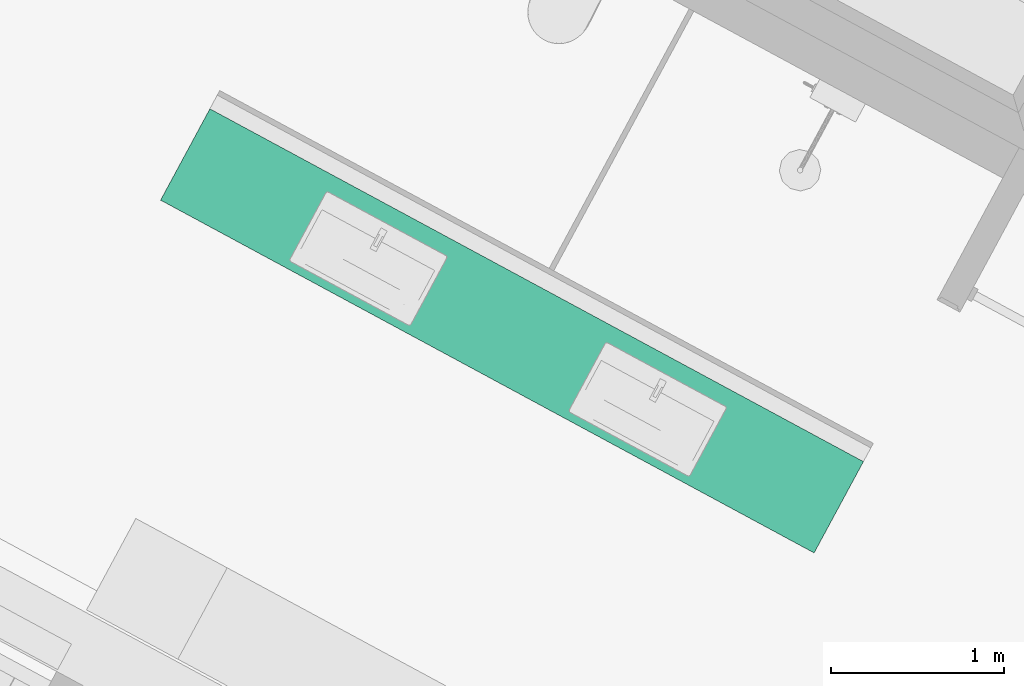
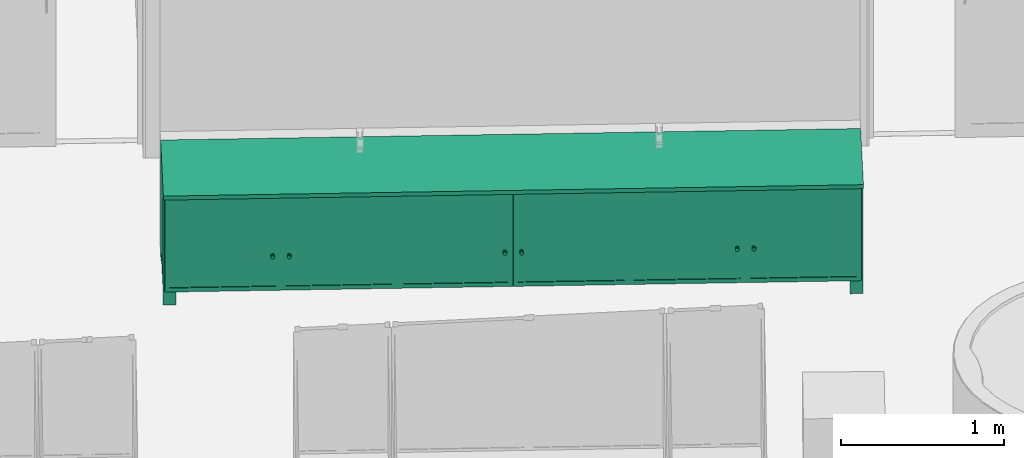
# One storey, part 20 of 41: 1 flow terminal.
"""IFC2X3 building model written with IfcOpenShell, lengths in metres."""

from ifc_helpers import new_model, entity, si_unit, converted_unit, derived_unit, money_unit, direction, frame, origin_with_axes, place, context, subcontext, project, spatial, faceted_brep, type_object, element, save


model = new_model("IFC2X3")

# Units and contexts
model_context = context("Model", 3, precision=1e-05, world=origin_with_axes(), true_north=direction((0.0, 1.0)))
body_context = subcontext(model_context, "Body", "Model", "MODEL_VIEW")
ifc_project = project(units=[si_unit("LENGTHUNIT", "METRE"), si_unit("AREAUNIT", "SQUARE_METRE"), si_unit("VOLUMEUNIT", "CUBIC_METRE"), converted_unit("PLANEANGLEUNIT", "DEGREE", entity("IfcPlaneAngleMeasure", 0.0174532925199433), si_unit("PLANEANGLEUNIT", "RADIAN"), dimensions=[0, 0, 0, 0, 0, 0, 0]), money_unit("EUR"), converted_unit("TIMEUNIT", "Year", entity("IfcTimeMeasure", 31556926.0), si_unit("TIMEUNIT", "SECOND"), dimensions=[0, 0, 1, 0, 0, 0, 0]), si_unit("MASSUNIT", "GRAM", prefix="KILO"), si_unit("THERMODYNAMICTEMPERATUREUNIT", "DEGREE_CELSIUS"), si_unit("LUMINOUSINTENSITYUNIT", "LUMEN"), si_unit("ENERGYUNIT", "JOULE", prefix="MEGA"), derived_unit("THERMALCONDUCTANCEUNIT", [(si_unit("POWERUNIT", "WATT"), 1), (si_unit("LENGTHUNIT", "METRE"), -1), (si_unit("THERMODYNAMICTEMPERATUREUNIT", "KELVIN"), -1)]), derived_unit("SPECIFICHEATCAPACITYUNIT", [(si_unit("ENERGYUNIT", "JOULE"), 1), (si_unit("MASSUNIT", "GRAM", prefix="KILO"), -1), (si_unit("THERMODYNAMICTEMPERATUREUNIT", "KELVIN"), -1)]), derived_unit("MASSDENSITYUNIT", [(si_unit("MASSUNIT", "GRAM", prefix="KILO"), 1), (si_unit("VOLUMEUNIT", "CUBIC_METRE"), -1)])], contexts=[model_context])

# Site, building, storey
site_placement = place(None, frame((-3.949935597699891, 1.740105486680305, 0.0), z_axis=(0.0, 0.0, 1.0), x_axis=(0.8799804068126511, -0.475009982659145, 0.0)))
site = spatial("IfcSite", under=ifc_project, at=site_placement, Name="Gelände", CompositionType="ELEMENT")
building_placement = place(site_placement, origin_with_axes())
building = spatial("IfcBuilding", under=site, at=building_placement, Name="Gebäude", CompositionType="ELEMENT")
storey_placement = place(building_placement, frame((0.0, 0.0, 4.55), z_axis=(0.0, 0.0, 1.0), x_axis=(1.0, 0.0, 0.0)))
storey = spatial("IfcBuildingStorey", under=building, at=storey_placement, Name="Staffelgeschoss", CompositionType="ELEMENT", Elevation=4.55)

# Flow terminal
sanitary_terminal_type = type_object("IfcSanitaryTerminalType", Name="Kleiderschrank 22", PredefinedType="NOTDEFINED")
flow_terminal_placement = place(storey_placement, frame((23.66207125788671, 3.927100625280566, 0.0), z_axis=(0.0, 0.0, 1.0), x_axis=(1.0, 0.0, 0.0)))
element("IfcFlowTerminal", 1, at=flow_terminal_placement, inside=storey, type_object=sanitary_terminal_type, Name="Objekt-0063", context=body_context, shape_type="Brep", body=[
    faceted_brep([(-0.02000000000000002, 0.6000002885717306, 0.12), (-0.02000000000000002, 0.6000002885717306, 0.7999999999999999), (-0.02000000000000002, 0.5800002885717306, 0.7999999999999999), (-0.02000000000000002, 0.5800002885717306, 0.12), (-4.272651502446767, 0.6000002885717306, 0.12), (-4.272651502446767, 0.6000002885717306, 0.7999999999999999), (-4.272651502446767, 0.5800002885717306, 0.7999999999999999), (-4.272651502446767, 0.5800002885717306, 0.12)], [[[0, 1, 2, 3]], [[4, 5, 1, 0]], [[1, 5, 6, 2]], [[3, 2, 6, 7]], [[0, 3, 7, 4]], [[7, 6, 5, 4]]]),
    faceted_brep([(-4.292651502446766, 0.05000000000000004, 0.1), (-4.292651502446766, 0.6000002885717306, 0.1), (-4.272651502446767, 0.6000002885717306, 0.1), (-4.272651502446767, 0.05000000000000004, 0.1), (-4.292651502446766, 0.05000000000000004, 0.82), (-4.292651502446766, 0.6000002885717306, 0.82), (-4.272651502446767, 0.6000002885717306, 0.82), (-4.272651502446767, 0.05000000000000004, 0.82)], [[[0, 1, 2, 3]], [[0, 4, 5, 1]], [[1, 5, 6, 2]], [[2, 6, 7, 3]], [[3, 7, 4, 0]], [[7, 6, 5, 4]]]),
    faceted_brep([(-0.02, 0.05000000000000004, 0.1), (-0.02, 0.6000002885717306, 0.1), (0.0, 0.6000002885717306, 0.1), (0.0, 0.05000000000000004, 0.1), (-0.02, 0.05000000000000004, 0.82), (-0.02, 0.6000002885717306, 0.82), (0.0, 0.6000002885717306, 0.82), (0.0, 0.05000000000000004, 0.82)], [[[0, 1, 2, 3]], [[0, 4, 5, 1]], [[1, 5, 6, 2]], [[2, 6, 7, 3]], [[3, 7, 4, 0]], [[7, 6, 5, 4]]]),
    faceted_brep([(-4.272651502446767, 0.05000000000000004, 0.1), (-4.272651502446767, 0.6000002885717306, 0.1), (-0.02000000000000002, 0.6000002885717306, 0.1), (-0.02000000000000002, 0.05000000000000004, 0.1), (-4.272651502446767, 0.05000000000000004, 0.12), (-4.272651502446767, 0.6000002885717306, 0.12), (-0.02000000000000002, 0.6000002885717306, 0.12), (-0.02000000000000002, 0.05000000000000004, 0.12)], [[[0, 1, 2, 3]], [[0, 4, 5, 1]], [[1, 5, 6, 2]], [[2, 6, 7, 3]], [[3, 7, 4, 0]], [[7, 6, 5, 4]]]),
    faceted_brep([(-4.272651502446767, 0.05000000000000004, 0.7999999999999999), (-4.272651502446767, 0.6000002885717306, 0.7999999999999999), (-0.02000000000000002, 0.6000002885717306, 0.7999999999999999), (-0.02000000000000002, 0.05000000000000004, 0.7999999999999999), (-4.272651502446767, 0.05000000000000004, 0.82), (-4.272651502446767, 0.6000002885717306, 0.82), (-0.02000000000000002, 0.6000002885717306, 0.82), (-0.02000000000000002, 0.05000000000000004, 0.82)], [[[0, 1, 2, 3]], [[0, 4, 5, 1]], [[1, 5, 6, 2]], [[2, 6, 7, 3]], [[3, 7, 4, 0]], [[7, 6, 5, 4]]]),
    faceted_brep([(-4.292651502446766, 0.6000002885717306, 0.82), (-4.292651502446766, 0.0, 0.82), (-4.292651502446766, 0.0, 0.85), (-4.292651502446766, 0.6000002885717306, 0.85), (0.0, 0.6000002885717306, 0.82), (0.0, 0.0, 0.82), (0.0, 0.0, 0.85), (0.0, 0.6000002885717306, 0.85)], [[[0, 1, 2, 3]], [[0, 4, 5, 1]], [[1, 5, 6, 2]], [[3, 2, 6, 7]], [[4, 0, 3, 7]], [[5, 4, 7, 6]]]),
    faceted_brep([(-0.08000000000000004, 0.5200002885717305, 0.0), (-0.08000000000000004, 0.5200002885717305, 0.1), (-0.08000000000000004, 0.6000002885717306, 0.1), (-0.08000000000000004, 0.6000002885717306, 0.0), (0.0, 0.5200002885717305, 0.0), (0.0, 0.5200002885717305, 0.1), (0.0, 0.6000002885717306, 0.1), (0.0, 0.6000002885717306, 0.0)], [[[0, 1, 2, 3]], [[4, 5, 1, 0]], [[1, 5, 6, 2]], [[3, 2, 6, 7]], [[0, 3, 7, 4]], [[7, 6, 5, 4]]]),
    faceted_brep([(-4.292651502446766, 0.5200002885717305, 0.0), (-4.292651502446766, 0.5200002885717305, 0.1), (-4.292651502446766, 0.6000002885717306, 0.1), (-4.292651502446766, 0.6000002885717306, 0.0), (-4.212651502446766, 0.5200002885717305, 0.0), (-4.212651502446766, 0.5200002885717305, 0.1), (-4.212651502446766, 0.6000002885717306, 0.1), (-4.212651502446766, 0.6000002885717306, 0.0)], [[[0, 1, 2, 3]], [[4, 5, 1, 0]], [[1, 5, 6, 2]], [[3, 2, 6, 7]], [[0, 3, 7, 4]], [[7, 6, 5, 4]]]),
    faceted_brep([(-0.08000000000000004, 0.05000000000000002, 0.0), (-0.08000000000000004, 0.05000000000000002, 0.1), (-0.08000000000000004, 0.13, 0.1), (-0.08000000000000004, 0.13, 0.0), (0.0, 0.05000000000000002, 0.0), (0.0, 0.05000000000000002, 0.1), (0.0, 0.13, 0.1), (0.0, 0.13, 0.0)], [[[0, 1, 2, 3]], [[4, 5, 1, 0]], [[1, 5, 6, 2]], [[3, 2, 6, 7]], [[0, 3, 7, 4]], [[7, 6, 5, 4]]]),
    faceted_brep([(-4.292651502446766, 0.05000000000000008, 0.0), (-4.292651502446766, 0.05000000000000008, 0.1), (-4.292651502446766, 0.1300000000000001, 0.1), (-4.292651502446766, 0.1300000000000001, 0.0), (-4.212651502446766, 0.05000000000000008, 0.0), (-4.212651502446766, 0.05000000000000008, 0.1), (-4.212651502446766, 0.1300000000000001, 0.1), (-4.212651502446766, 0.1300000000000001, 0.0)], [[[0, 1, 2, 3]], [[4, 5, 1, 0]], [[1, 5, 6, 2]], [[3, 2, 6, 7]], [[0, 3, 7, 4]], [[7, 6, 5, 4]]]),
    faceted_brep([(-0.7216085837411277, 0.05, 0.1105), (-0.7216085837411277, 0.03, 0.1105), (-0.7216085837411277, 0.03000000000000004, 0.8095), (-0.7216085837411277, 0.05000000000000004, 0.8095), (-0.6916085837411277, 0.05, 0.1405), (-0.6916085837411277, 0.03000000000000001, 0.1405), (-0.6916085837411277, 0.03000000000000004, 0.7795), (-0.6916085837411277, 0.05000000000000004, 0.7795)], [[[0, 1, 2, 3]], [[4, 5, 1, 0]], [[1, 5, 6, 2]], [[3, 2, 6, 7]], [[0, 3, 7, 4]], [[7, 6, 5, 4]]]),
    faceted_brep([(-0.04050000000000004, 0.05, 0.1405), (-0.04050000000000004, 0.03000000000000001, 0.1405), (-0.04050000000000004, 0.03000000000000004, 0.7795), (-0.04050000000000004, 0.05000000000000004, 0.7795), (-0.01050000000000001, 0.05, 0.1105), (-0.01050000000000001, 0.03, 0.1105), (-0.01050000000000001, 0.03000000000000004, 0.8095), (-0.01050000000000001, 0.05000000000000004, 0.8095)], [[[0, 1, 2, 3]], [[4, 5, 1, 0]], [[1, 5, 6, 2]], [[3, 2, 6, 7]], [[0, 3, 7, 4]], [[7, 6, 5, 4]]]),
    faceted_brep([(-0.01050000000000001, 0.05, 0.1105), (-0.01050000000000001, 0.03, 0.1105), (-0.7216085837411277, 0.03, 0.1105), (-0.7216085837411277, 0.05, 0.1105), (-0.04050000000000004, 0.05, 0.1405), (-0.04050000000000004, 0.03000000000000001, 0.1405), (-0.6916085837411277, 0.03000000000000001, 0.1405), (-0.6916085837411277, 0.05, 0.1405)], [[[0, 1, 2, 3]], [[4, 5, 1, 0]], [[1, 5, 6, 2]], [[3, 2, 6, 7]], [[0, 3, 7, 4]], [[7, 6, 5, 4]]]),
    faceted_brep([(-0.04050000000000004, 0.05000000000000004, 0.7795), (-0.04050000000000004, 0.03000000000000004, 0.7795), (-0.6916085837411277, 0.03000000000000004, 0.7795), (-0.6916085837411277, 0.05000000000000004, 0.7795), (-0.01050000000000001, 0.05000000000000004, 0.8095), (-0.01050000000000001, 0.03000000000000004, 0.8095), (-0.7216085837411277, 0.03000000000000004, 0.8095), (-0.7216085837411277, 0.05000000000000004, 0.8095)], [[[0, 1, 2, 3]], [[4, 5, 1, 0]], [[1, 5, 6, 2]], [[3, 2, 6, 7]], [[0, 3, 7, 4]], [[7, 6, 5, 4]]]),
    faceted_brep([(-0.6916085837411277, 0.04500000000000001, 0.1405), (-0.6916085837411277, 0.035, 0.1405), (-0.6916085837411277, 0.03500000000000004, 0.7795000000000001), (-0.6916085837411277, 0.04500000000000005, 0.7795000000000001), (-0.04050000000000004, 0.04500000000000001, 0.1405), (-0.04050000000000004, 0.035, 0.1405), (-0.04050000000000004, 0.03500000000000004, 0.7795000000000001), (-0.04050000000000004, 0.04500000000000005, 0.7795000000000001)], [[[0, 1, 2, 3]], [[4, 5, 1, 0]], [[1, 5, 6, 2]], [[3, 2, 6, 7]], [[0, 3, 7, 4]], [[7, 6, 5, 4]]]),
    faceted_brep([(-0.681500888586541, 0.035, 0.364), (-0.6831085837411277, 0.035, 0.37), (-0.681500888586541, 0.035, 0.376), (-0.6771085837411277, 0.035, 0.3803923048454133), (-0.6711085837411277, 0.035, 0.382), (-0.6651085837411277, 0.035, 0.3803923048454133), (-0.6607162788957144, 0.035, 0.376), (-0.6591085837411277, 0.035, 0.37), (-0.6607162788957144, 0.035, 0.364), (-0.6651085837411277, 0.035, 0.3596076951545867), (-0.6711085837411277, 0.035, 0.358), (-0.6771085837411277, 0.035, 0.3596076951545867), (-0.681500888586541, 0.01, 0.364), (-0.6831085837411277, 0.01, 0.37), (-0.681500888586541, 0.01, 0.376), (-0.6771085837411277, 0.01, 0.3803923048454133), (-0.6711085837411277, 0.01, 0.382), (-0.6651085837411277, 0.01, 0.3803923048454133), (-0.6607162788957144, 0.01, 0.376), (-0.6591085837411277, 0.01, 0.37), (-0.6607162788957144, 0.01, 0.364), (-0.6651085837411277, 0.01, 0.3596076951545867), (-0.6711085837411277, 0.01, 0.358), (-0.6771085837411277, 0.01, 0.3596076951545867)], [[[0, 1, 2, 3, 4, 5, 6, 7, 8, 9, 10, 11]], [[0, 12, 13, 1]], [[1, 13, 14, 2]], [[2, 14, 15, 3]], [[3, 15, 16, 4]], [[4, 16, 17, 5]], [[5, 17, 18, 6]], [[6, 18, 19, 7]], [[7, 19, 20, 8]], [[8, 20, 21, 9]], [[9, 21, 22, 10]], [[10, 22, 23, 11]], [[11, 23, 12, 0]], [[12, 23, 22, 21, 20, 19, 18, 17, 16, 15, 14, 13]]]),
    faceted_brep([(-1.434717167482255, 0.05, 0.1105), (-1.434717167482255, 0.03, 0.1105), (-1.434717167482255, 0.03000000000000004, 0.8095), (-1.434717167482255, 0.05000000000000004, 0.8095), (-1.404717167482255, 0.05, 0.1405), (-1.404717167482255, 0.03000000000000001, 0.1405), (-1.404717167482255, 0.03000000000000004, 0.7795), (-1.404717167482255, 0.05000000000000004, 0.7795)], [[[0, 1, 2, 3]], [[4, 5, 1, 0]], [[1, 5, 6, 2]], [[3, 2, 6, 7]], [[0, 3, 7, 4]], [[7, 6, 5, 4]]]),
    faceted_brep([(-0.7536085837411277, 0.05, 0.1405), (-0.7536085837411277, 0.03000000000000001, 0.1405), (-0.7536085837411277, 0.03000000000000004, 0.7795), (-0.7536085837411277, 0.05000000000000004, 0.7795), (-0.7236085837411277, 0.05, 0.1105), (-0.7236085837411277, 0.03, 0.1105), (-0.7236085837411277, 0.03000000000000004, 0.8095), (-0.7236085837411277, 0.05000000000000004, 0.8095)], [[[0, 1, 2, 3]], [[4, 5, 1, 0]], [[1, 5, 6, 2]], [[3, 2, 6, 7]], [[0, 3, 7, 4]], [[7, 6, 5, 4]]]),
    faceted_brep([(-0.7236085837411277, 0.05, 0.1105), (-0.7236085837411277, 0.03, 0.1105), (-1.434717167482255, 0.03, 0.1105), (-1.434717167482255, 0.05, 0.1105), (-0.7536085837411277, 0.05, 0.1405), (-0.7536085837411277, 0.03000000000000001, 0.1405), (-1.404717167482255, 0.03000000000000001, 0.1405), (-1.404717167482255, 0.05, 0.1405)], [[[0, 1, 2, 3]], [[4, 5, 1, 0]], [[1, 5, 6, 2]], [[3, 2, 6, 7]], [[0, 3, 7, 4]], [[7, 6, 5, 4]]]),
    faceted_brep([(-0.7536085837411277, 0.05000000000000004, 0.7795), (-0.7536085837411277, 0.03000000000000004, 0.7795), (-1.404717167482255, 0.03000000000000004, 0.7795), (-1.404717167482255, 0.05000000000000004, 0.7795), (-0.7236085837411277, 0.05000000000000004, 0.8095), (-0.7236085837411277, 0.03000000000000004, 0.8095), (-1.434717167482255, 0.03000000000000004, 0.8095), (-1.434717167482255, 0.05000000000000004, 0.8095)], [[[0, 1, 2, 3]], [[4, 5, 1, 0]], [[1, 5, 6, 2]], [[3, 2, 6, 7]], [[0, 3, 7, 4]], [[7, 6, 5, 4]]]),
    faceted_brep([(-1.404717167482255, 0.04500000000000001, 0.1405), (-1.404717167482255, 0.04000000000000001, 0.1405), (-1.404717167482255, 0.04000000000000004, 0.7795000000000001), (-1.404717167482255, 0.04500000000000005, 0.7795000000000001), (-0.7536085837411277, 0.04500000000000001, 0.1405), (-0.7536085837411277, 0.04000000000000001, 0.1405), (-0.7536085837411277, 0.04000000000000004, 0.7795000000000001), (-0.7536085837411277, 0.04500000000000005, 0.7795000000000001)], [[[0, 1, 2, 3]], [[4, 5, 1, 0]], [[1, 5, 6, 2]], [[3, 2, 6, 7]], [[0, 3, 7, 4]], [[7, 6, 5, 4]]]),
    faceted_brep([(-1.404717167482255, 0.04000000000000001, 0.1405), (-1.404717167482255, 0.03500000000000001, 0.1405), (-1.404717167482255, 0.03500000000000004, 0.7795000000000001), (-1.404717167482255, 0.04000000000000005, 0.7795000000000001), (-0.7536085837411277, 0.04000000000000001, 0.1405), (-0.7536085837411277, 0.03500000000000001, 0.1405), (-0.7536085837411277, 0.03500000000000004, 0.7795000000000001), (-0.7536085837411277, 0.04000000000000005, 0.7795000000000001)], [[[0, 1, 2, 3]], [[4, 5, 1, 0]], [[1, 5, 6, 2]], [[3, 2, 6, 7]], [[0, 3, 7, 4]], [[7, 6, 5, 4]]]),
    faceted_brep([(-0.7627162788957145, 0.035, 0.364), (-0.7671085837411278, 0.035, 0.3596076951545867), (-0.7731085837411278, 0.035, 0.358), (-0.7791085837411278, 0.035, 0.3596076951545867), (-0.7835008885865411, 0.035, 0.364), (-0.7851085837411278, 0.035, 0.37), (-0.7835008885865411, 0.035, 0.376), (-0.7791085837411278, 0.035, 0.3803923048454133), (-0.7731085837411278, 0.035, 0.382), (-0.7671085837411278, 0.035, 0.3803923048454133), (-0.7627162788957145, 0.035, 0.376), (-0.7611085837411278, 0.035, 0.37), (-0.7627162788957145, 0.01, 0.364), (-0.7671085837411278, 0.01, 0.3596076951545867), (-0.7731085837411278, 0.01, 0.358), (-0.7791085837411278, 0.01, 0.3596076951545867), (-0.7835008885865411, 0.01, 0.364), (-0.7851085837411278, 0.01, 0.37), (-0.7835008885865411, 0.01, 0.376), (-0.7791085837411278, 0.01, 0.3803923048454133), (-0.7731085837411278, 0.01, 0.382), (-0.7671085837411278, 0.01, 0.3803923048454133), (-0.7627162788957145, 0.01, 0.376), (-0.7611085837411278, 0.01, 0.37)], [[[0, 1, 2, 3, 4, 5, 6, 7, 8, 9, 10, 11]], [[1, 0, 12, 13]], [[2, 1, 13, 14]], [[3, 2, 14, 15]], [[4, 3, 15, 16]], [[5, 4, 16, 17]], [[6, 5, 17, 18]], [[7, 6, 18, 19]], [[8, 7, 19, 20]], [[9, 8, 20, 21]], [[10, 9, 21, 22]], [[11, 10, 22, 23]], [[0, 11, 23, 12]], [[12, 23, 22, 21, 20, 19, 18, 17, 16, 15, 14, 13]]]),
    faceted_brep([(-2.145825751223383, 0.05, 0.1105), (-2.145825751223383, 0.03, 0.1105), (-2.145825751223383, 0.03000000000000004, 0.8095), (-2.145825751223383, 0.05000000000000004, 0.8095), (-2.115825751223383, 0.05, 0.1405), (-2.115825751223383, 0.03000000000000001, 0.1405), (-2.115825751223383, 0.03000000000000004, 0.7795), (-2.115825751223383, 0.05000000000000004, 0.7795)], [[[0, 1, 2, 3]], [[4, 5, 1, 0]], [[1, 5, 6, 2]], [[3, 2, 6, 7]], [[0, 3, 7, 4]], [[7, 6, 5, 4]]]),
    faceted_brep([(-1.464717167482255, 0.05, 0.1405), (-1.464717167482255, 0.03000000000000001, 0.1405), (-1.464717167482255, 0.03000000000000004, 0.7795), (-1.464717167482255, 0.05000000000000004, 0.7795), (-1.434717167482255, 0.05, 0.1105), (-1.434717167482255, 0.03, 0.1105), (-1.434717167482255, 0.03000000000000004, 0.8095), (-1.434717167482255, 0.05000000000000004, 0.8095)], [[[0, 1, 2, 3]], [[4, 5, 1, 0]], [[1, 5, 6, 2]], [[3, 2, 6, 7]], [[0, 3, 7, 4]], [[7, 6, 5, 4]]]),
    faceted_brep([(-1.434717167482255, 0.05, 0.1105), (-1.434717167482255, 0.03, 0.1105), (-2.145825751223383, 0.03, 0.1105), (-2.145825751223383, 0.05, 0.1105), (-1.464717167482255, 0.05, 0.1405), (-1.464717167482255, 0.03000000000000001, 0.1405), (-2.115825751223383, 0.03000000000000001, 0.1405), (-2.115825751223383, 0.05, 0.1405)], [[[0, 1, 2, 3]], [[4, 5, 1, 0]], [[1, 5, 6, 2]], [[3, 2, 6, 7]], [[0, 3, 7, 4]], [[7, 6, 5, 4]]]),
    faceted_brep([(-1.464717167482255, 0.05000000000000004, 0.7795), (-1.464717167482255, 0.03000000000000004, 0.7795), (-2.115825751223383, 0.03000000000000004, 0.7795), (-2.115825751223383, 0.05000000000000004, 0.7795), (-1.434717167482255, 0.05000000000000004, 0.8095), (-1.434717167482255, 0.03000000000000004, 0.8095), (-2.145825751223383, 0.03000000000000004, 0.8095), (-2.145825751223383, 0.05000000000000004, 0.8095)], [[[0, 1, 2, 3]], [[4, 5, 1, 0]], [[1, 5, 6, 2]], [[3, 2, 6, 7]], [[0, 3, 7, 4]], [[7, 6, 5, 4]]]),
    faceted_brep([(-2.115825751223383, 0.04500000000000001, 0.1405), (-2.115825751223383, 0.035, 0.1405), (-2.115825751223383, 0.03500000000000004, 0.7795000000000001), (-2.115825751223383, 0.04500000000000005, 0.7795000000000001), (-1.464717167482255, 0.04500000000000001, 0.1405), (-1.464717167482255, 0.035, 0.1405), (-1.464717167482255, 0.03500000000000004, 0.7795000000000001), (-1.464717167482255, 0.04500000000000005, 0.7795000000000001)], [[[0, 1, 2, 3]], [[4, 5, 1, 0]], [[1, 5, 6, 2]], [[3, 2, 6, 7]], [[0, 3, 7, 4]], [[7, 6, 5, 4]]]),
    faceted_brep([(-2.105718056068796, 0.035, 0.364), (-2.107325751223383, 0.035, 0.37), (-2.105718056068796, 0.035, 0.376), (-2.101325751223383, 0.035, 0.3803923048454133), (-2.095325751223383, 0.035, 0.382), (-2.089325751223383, 0.035, 0.3803923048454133), (-2.08493344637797, 0.035, 0.376), (-2.083325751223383, 0.035, 0.37), (-2.08493344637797, 0.035, 0.364), (-2.089325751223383, 0.035, 0.3596076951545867), (-2.095325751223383, 0.035, 0.358), (-2.101325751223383, 0.035, 0.3596076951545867), (-2.105718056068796, 0.01, 0.364), (-2.107325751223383, 0.01, 0.37), (-2.105718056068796, 0.01, 0.376), (-2.101325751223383, 0.01, 0.3803923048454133), (-2.095325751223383, 0.01, 0.382), (-2.089325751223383, 0.01, 0.3803923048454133), (-2.08493344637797, 0.01, 0.376), (-2.083325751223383, 0.01, 0.37), (-2.08493344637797, 0.01, 0.364), (-2.089325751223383, 0.01, 0.3596076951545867), (-2.095325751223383, 0.01, 0.358), (-2.101325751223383, 0.01, 0.3596076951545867)], [[[0, 1, 2, 3, 4, 5, 6, 7, 8, 9, 10, 11]], [[0, 12, 13, 1]], [[1, 13, 14, 2]], [[2, 14, 15, 3]], [[3, 15, 16, 4]], [[4, 16, 17, 5]], [[5, 17, 18, 6]], [[6, 18, 19, 7]], [[7, 19, 20, 8]], [[8, 20, 21, 9]], [[9, 21, 22, 10]], [[10, 22, 23, 11]], [[11, 23, 12, 0]], [[12, 23, 22, 21, 20, 19, 18, 17, 16, 15, 14, 13]]]),
    faceted_brep([(-2.858934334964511, 0.05, 0.1105), (-2.858934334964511, 0.03, 0.1105), (-2.858934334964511, 0.03000000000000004, 0.8095), (-2.858934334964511, 0.05000000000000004, 0.8095), (-2.828934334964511, 0.05, 0.1405), (-2.828934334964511, 0.03000000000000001, 0.1405), (-2.828934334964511, 0.03000000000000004, 0.7795), (-2.828934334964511, 0.05000000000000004, 0.7795)], [[[0, 1, 2, 3]], [[4, 5, 1, 0]], [[1, 5, 6, 2]], [[3, 2, 6, 7]], [[0, 3, 7, 4]], [[7, 6, 5, 4]]]),
    faceted_brep([(-2.177825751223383, 0.05, 0.1405), (-2.177825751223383, 0.03000000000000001, 0.1405), (-2.177825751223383, 0.03000000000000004, 0.7795), (-2.177825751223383, 0.05000000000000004, 0.7795), (-2.147825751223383, 0.05, 0.1105), (-2.147825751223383, 0.03, 0.1105), (-2.147825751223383, 0.03000000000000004, 0.8095), (-2.147825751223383, 0.05000000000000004, 0.8095)], [[[0, 1, 2, 3]], [[4, 5, 1, 0]], [[1, 5, 6, 2]], [[3, 2, 6, 7]], [[0, 3, 7, 4]], [[7, 6, 5, 4]]]),
    faceted_brep([(-2.147825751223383, 0.05, 0.1105), (-2.147825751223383, 0.03, 0.1105), (-2.85893433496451, 0.03, 0.1105), (-2.85893433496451, 0.05, 0.1105), (-2.177825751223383, 0.05, 0.1405), (-2.177825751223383, 0.03000000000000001, 0.1405), (-2.828934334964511, 0.03000000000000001, 0.1405), (-2.828934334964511, 0.05, 0.1405)], [[[0, 1, 2, 3]], [[4, 5, 1, 0]], [[1, 5, 6, 2]], [[3, 2, 6, 7]], [[0, 3, 7, 4]], [[7, 6, 5, 4]]]),
    faceted_brep([(-2.177825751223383, 0.05000000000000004, 0.7795), (-2.177825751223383, 0.03000000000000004, 0.7795), (-2.828934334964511, 0.03000000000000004, 0.7795), (-2.828934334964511, 0.05000000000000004, 0.7795), (-2.147825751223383, 0.05000000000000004, 0.8095), (-2.147825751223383, 0.03000000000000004, 0.8095), (-2.85893433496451, 0.03000000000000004, 0.8095), (-2.85893433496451, 0.05000000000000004, 0.8095)], [[[0, 1, 2, 3]], [[4, 5, 1, 0]], [[1, 5, 6, 2]], [[3, 2, 6, 7]], [[0, 3, 7, 4]], [[7, 6, 5, 4]]]),
    faceted_brep([(-2.82893433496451, 0.04500000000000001, 0.1405), (-2.82893433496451, 0.04000000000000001, 0.1405), (-2.82893433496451, 0.04000000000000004, 0.7795000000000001), (-2.82893433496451, 0.04500000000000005, 0.7795000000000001), (-2.177825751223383, 0.04500000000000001, 0.1405), (-2.177825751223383, 0.04000000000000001, 0.1405), (-2.177825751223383, 0.04000000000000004, 0.7795000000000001), (-2.177825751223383, 0.04500000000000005, 0.7795000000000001)], [[[0, 1, 2, 3]], [[4, 5, 1, 0]], [[1, 5, 6, 2]], [[3, 2, 6, 7]], [[0, 3, 7, 4]], [[7, 6, 5, 4]]]),
    faceted_brep([(-2.82893433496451, 0.04000000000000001, 0.1405), (-2.82893433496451, 0.03500000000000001, 0.1405), (-2.82893433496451, 0.03500000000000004, 0.7795000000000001), (-2.82893433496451, 0.04000000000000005, 0.7795000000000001), (-2.177825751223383, 0.04000000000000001, 0.1405), (-2.177825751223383, 0.03500000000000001, 0.1405), (-2.177825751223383, 0.03500000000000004, 0.7795000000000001), (-2.177825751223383, 0.04000000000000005, 0.7795000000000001)], [[[0, 1, 2, 3]], [[4, 5, 1, 0]], [[1, 5, 6, 2]], [[3, 2, 6, 7]], [[0, 3, 7, 4]], [[7, 6, 5, 4]]]),
    faceted_brep([(-2.18693344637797, 0.035, 0.364), (-2.191325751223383, 0.035, 0.3596076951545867), (-2.197325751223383, 0.035, 0.358), (-2.203325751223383, 0.035, 0.3596076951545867), (-2.207718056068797, 0.035, 0.364), (-2.209325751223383, 0.035, 0.37), (-2.207718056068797, 0.035, 0.376), (-2.203325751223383, 0.035, 0.3803923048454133), (-2.197325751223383, 0.035, 0.382), (-2.191325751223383, 0.035, 0.3803923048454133), (-2.18693344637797, 0.035, 0.376), (-2.185325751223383, 0.035, 0.37), (-2.18693344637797, 0.01, 0.364), (-2.191325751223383, 0.01, 0.3596076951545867), (-2.197325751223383, 0.01, 0.358), (-2.203325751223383, 0.01, 0.3596076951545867), (-2.207718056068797, 0.01, 0.364), (-2.209325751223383, 0.01, 0.37), (-2.207718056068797, 0.01, 0.376), (-2.203325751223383, 0.01, 0.3803923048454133), (-2.197325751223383, 0.01, 0.382), (-2.191325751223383, 0.01, 0.3803923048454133), (-2.18693344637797, 0.01, 0.376), (-2.185325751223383, 0.01, 0.37)], [[[0, 1, 2, 3, 4, 5, 6, 7, 8, 9, 10, 11]], [[1, 0, 12, 13]], [[2, 1, 13, 14]], [[3, 2, 14, 15]], [[4, 3, 15, 16]], [[5, 4, 16, 17]], [[6, 5, 17, 18]], [[7, 6, 18, 19]], [[8, 7, 19, 20]], [[9, 8, 20, 21]], [[10, 9, 21, 22]], [[11, 10, 22, 23]], [[0, 11, 23, 12]], [[12, 23, 22, 21, 20, 19, 18, 17, 16, 15, 14, 13]]]),
    faceted_brep([(-3.570042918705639, 0.05, 0.1105), (-3.570042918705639, 0.03, 0.1105), (-3.570042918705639, 0.03000000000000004, 0.8095), (-3.570042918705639, 0.05000000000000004, 0.8095), (-3.540042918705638, 0.05, 0.1405), (-3.540042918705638, 0.03000000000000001, 0.1405), (-3.540042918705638, 0.03000000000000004, 0.7795), (-3.540042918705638, 0.05000000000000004, 0.7795)], [[[0, 1, 2, 3]], [[4, 5, 1, 0]], [[1, 5, 6, 2]], [[3, 2, 6, 7]], [[0, 3, 7, 4]], [[7, 6, 5, 4]]]),
    faceted_brep([(-2.88893433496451, 0.05, 0.1405), (-2.88893433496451, 0.03000000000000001, 0.1405), (-2.88893433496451, 0.03000000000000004, 0.7795), (-2.88893433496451, 0.05000000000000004, 0.7795), (-2.85893433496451, 0.05, 0.1105), (-2.85893433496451, 0.03, 0.1105), (-2.85893433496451, 0.03000000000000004, 0.8095), (-2.85893433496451, 0.05000000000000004, 0.8095)], [[[0, 1, 2, 3]], [[4, 5, 1, 0]], [[1, 5, 6, 2]], [[3, 2, 6, 7]], [[0, 3, 7, 4]], [[7, 6, 5, 4]]]),
    faceted_brep([(-2.85893433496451, 0.05, 0.1105), (-2.85893433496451, 0.03, 0.1105), (-3.570042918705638, 0.03, 0.1105), (-3.570042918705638, 0.05, 0.1105), (-2.88893433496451, 0.05, 0.1405), (-2.88893433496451, 0.03000000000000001, 0.1405), (-3.540042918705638, 0.03000000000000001, 0.1405), (-3.540042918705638, 0.05, 0.1405)], [[[0, 1, 2, 3]], [[4, 5, 1, 0]], [[1, 5, 6, 2]], [[3, 2, 6, 7]], [[0, 3, 7, 4]], [[7, 6, 5, 4]]]),
    faceted_brep([(-2.88893433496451, 0.05000000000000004, 0.7795), (-2.88893433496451, 0.03000000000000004, 0.7795), (-3.540042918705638, 0.03000000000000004, 0.7795), (-3.540042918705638, 0.05000000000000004, 0.7795), (-2.85893433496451, 0.05000000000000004, 0.8095), (-2.85893433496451, 0.03000000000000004, 0.8095), (-3.570042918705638, 0.03000000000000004, 0.8095), (-3.570042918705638, 0.05000000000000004, 0.8095)], [[[0, 1, 2, 3]], [[4, 5, 1, 0]], [[1, 5, 6, 2]], [[3, 2, 6, 7]], [[0, 3, 7, 4]], [[7, 6, 5, 4]]]),
    faceted_brep([(-3.540042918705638, 0.04500000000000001, 0.1405), (-3.540042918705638, 0.035, 0.1405), (-3.540042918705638, 0.03500000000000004, 0.7795000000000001), (-3.540042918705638, 0.04500000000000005, 0.7795000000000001), (-2.88893433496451, 0.04500000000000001, 0.1405), (-2.88893433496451, 0.035, 0.1405), (-2.88893433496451, 0.03500000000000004, 0.7795000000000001), (-2.88893433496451, 0.04500000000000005, 0.7795000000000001)], [[[0, 1, 2, 3]], [[4, 5, 1, 0]], [[1, 5, 6, 2]], [[3, 2, 6, 7]], [[0, 3, 7, 4]], [[7, 6, 5, 4]]]),
    faceted_brep([(-3.529935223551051, 0.035, 0.364), (-3.531542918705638, 0.035, 0.37), (-3.529935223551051, 0.035, 0.376), (-3.525542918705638, 0.035, 0.3803923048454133), (-3.519542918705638, 0.035, 0.382), (-3.513542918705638, 0.035, 0.3803923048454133), (-3.509150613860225, 0.035, 0.376), (-3.507542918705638, 0.035, 0.37), (-3.509150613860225, 0.035, 0.364), (-3.513542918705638, 0.035, 0.3596076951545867), (-3.519542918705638, 0.035, 0.358), (-3.525542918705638, 0.035, 0.3596076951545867), (-3.529935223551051, 0.01, 0.364), (-3.531542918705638, 0.01, 0.37), (-3.529935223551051, 0.01, 0.376), (-3.525542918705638, 0.01, 0.3803923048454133), (-3.519542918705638, 0.01, 0.382), (-3.513542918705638, 0.01, 0.3803923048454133), (-3.509150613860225, 0.01, 0.376), (-3.507542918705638, 0.01, 0.37), (-3.509150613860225, 0.01, 0.364), (-3.513542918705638, 0.01, 0.3596076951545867), (-3.519542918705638, 0.01, 0.358), (-3.525542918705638, 0.01, 0.3596076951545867)], [[[0, 1, 2, 3, 4, 5, 6, 7, 8, 9, 10, 11]], [[0, 12, 13, 1]], [[1, 13, 14, 2]], [[2, 14, 15, 3]], [[3, 15, 16, 4]], [[4, 16, 17, 5]], [[5, 17, 18, 6]], [[6, 18, 19, 7]], [[7, 19, 20, 8]], [[8, 20, 21, 9]], [[9, 21, 22, 10]], [[10, 22, 23, 11]], [[11, 23, 12, 0]], [[12, 23, 22, 21, 20, 19, 18, 17, 16, 15, 14, 13]]]),
    faceted_brep([(-4.283151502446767, 0.05, 0.1105), (-4.283151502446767, 0.03, 0.1105), (-4.283151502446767, 0.03000000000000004, 0.8095), (-4.283151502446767, 0.05000000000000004, 0.8095), (-4.253151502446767, 0.05, 0.1405), (-4.253151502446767, 0.03000000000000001, 0.1405), (-4.253151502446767, 0.03000000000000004, 0.7795), (-4.253151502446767, 0.05000000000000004, 0.7795)], [[[0, 1, 2, 3]], [[4, 5, 1, 0]], [[1, 5, 6, 2]], [[3, 2, 6, 7]], [[0, 3, 7, 4]], [[7, 6, 5, 4]]]),
    faceted_brep([(-3.602042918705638, 0.05, 0.1405), (-3.602042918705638, 0.03000000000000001, 0.1405), (-3.602042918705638, 0.03000000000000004, 0.7795), (-3.602042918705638, 0.05000000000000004, 0.7795), (-3.572042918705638, 0.05, 0.1105), (-3.572042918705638, 0.03, 0.1105), (-3.572042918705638, 0.03000000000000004, 0.8095), (-3.572042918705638, 0.05000000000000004, 0.8095)], [[[0, 1, 2, 3]], [[4, 5, 1, 0]], [[1, 5, 6, 2]], [[3, 2, 6, 7]], [[0, 3, 7, 4]], [[7, 6, 5, 4]]]),
    faceted_brep([(-3.572042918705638, 0.05, 0.1105), (-3.572042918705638, 0.03, 0.1105), (-4.283151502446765, 0.03, 0.1105), (-4.283151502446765, 0.05, 0.1105), (-3.602042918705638, 0.05, 0.1405), (-3.602042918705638, 0.03000000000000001, 0.1405), (-4.253151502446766, 0.03000000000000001, 0.1405), (-4.253151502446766, 0.05, 0.1405)], [[[0, 1, 2, 3]], [[4, 5, 1, 0]], [[1, 5, 6, 2]], [[3, 2, 6, 7]], [[0, 3, 7, 4]], [[7, 6, 5, 4]]]),
    faceted_brep([(-3.602042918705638, 0.05000000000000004, 0.7795), (-3.602042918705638, 0.03000000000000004, 0.7795), (-4.253151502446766, 0.03000000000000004, 0.7795), (-4.253151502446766, 0.05000000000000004, 0.7795), (-3.572042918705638, 0.05000000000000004, 0.8095), (-3.572042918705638, 0.03000000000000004, 0.8095), (-4.283151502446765, 0.03000000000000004, 0.8095), (-4.283151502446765, 0.05000000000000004, 0.8095)], [[[0, 1, 2, 3]], [[4, 5, 1, 0]], [[1, 5, 6, 2]], [[3, 2, 6, 7]], [[0, 3, 7, 4]], [[7, 6, 5, 4]]]),
    faceted_brep([(-4.253151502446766, 0.04500000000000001, 0.1405), (-4.253151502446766, 0.04000000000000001, 0.1405), (-4.253151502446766, 0.04000000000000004, 0.7795000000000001), (-4.253151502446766, 0.04500000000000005, 0.7795000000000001), (-3.602042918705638, 0.04500000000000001, 0.1405), (-3.602042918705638, 0.04000000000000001, 0.1405), (-3.602042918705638, 0.04000000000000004, 0.7795000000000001), (-3.602042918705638, 0.04500000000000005, 0.7795000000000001)], [[[0, 1, 2, 3]], [[4, 5, 1, 0]], [[1, 5, 6, 2]], [[3, 2, 6, 7]], [[0, 3, 7, 4]], [[7, 6, 5, 4]]]),
    faceted_brep([(-4.253151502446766, 0.04000000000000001, 0.1405), (-4.253151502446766, 0.03500000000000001, 0.1405), (-4.253151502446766, 0.03500000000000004, 0.7795000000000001), (-4.253151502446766, 0.04000000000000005, 0.7795000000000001), (-3.602042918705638, 0.04000000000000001, 0.1405), (-3.602042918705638, 0.03500000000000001, 0.1405), (-3.602042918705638, 0.03500000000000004, 0.7795000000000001), (-3.602042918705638, 0.04000000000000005, 0.7795000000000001)], [[[0, 1, 2, 3]], [[4, 5, 1, 0]], [[1, 5, 6, 2]], [[3, 2, 6, 7]], [[0, 3, 7, 4]], [[7, 6, 5, 4]]]),
    faceted_brep([(-3.611150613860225, 0.035, 0.364), (-3.615542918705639, 0.035, 0.3596076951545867), (-3.621542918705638, 0.035, 0.358), (-3.627542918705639, 0.035, 0.3596076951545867), (-3.631935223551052, 0.035, 0.364), (-3.633542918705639, 0.035, 0.37), (-3.631935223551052, 0.035, 0.376), (-3.627542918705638, 0.035, 0.3803923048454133), (-3.621542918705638, 0.035, 0.382), (-3.615542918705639, 0.035, 0.3803923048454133), (-3.611150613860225, 0.035, 0.376), (-3.609542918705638, 0.035, 0.37), (-3.611150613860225, 0.01, 0.364), (-3.615542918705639, 0.01, 0.3596076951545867), (-3.621542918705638, 0.01, 0.358), (-3.627542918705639, 0.01, 0.3596076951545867), (-3.631935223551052, 0.01, 0.364), (-3.633542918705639, 0.01, 0.37), (-3.631935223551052, 0.01, 0.376), (-3.627542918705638, 0.01, 0.3803923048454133), (-3.621542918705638, 0.01, 0.382), (-3.615542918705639, 0.01, 0.3803923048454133), (-3.611150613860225, 0.01, 0.376), (-3.609542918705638, 0.01, 0.37)], [[[0, 1, 2, 3, 4, 5, 6, 7, 8, 9, 10, 11]], [[1, 0, 12, 13]], [[2, 1, 13, 14]], [[3, 2, 14, 15]], [[4, 3, 15, 16]], [[5, 4, 16, 17]], [[6, 5, 17, 18]], [[7, 6, 18, 19]], [[8, 7, 19, 20]], [[9, 8, 20, 21]], [[10, 9, 21, 22]], [[11, 10, 22, 23]], [[0, 11, 23, 12]], [[12, 23, 22, 21, 20, 19, 18, 17, 16, 15, 14, 13]]]),
])

save(model, "model.ifc")
